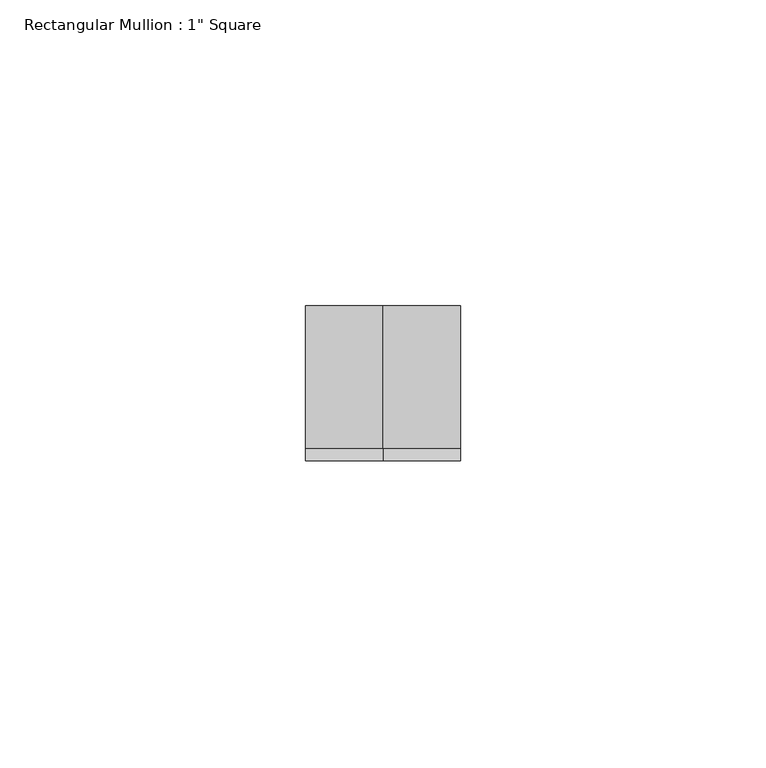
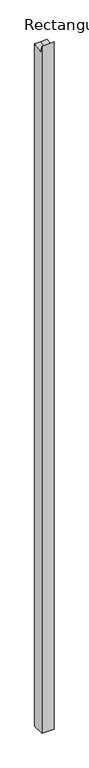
"""IFC4 building model written with IfcOpenShell, lengths in millimetres: member geometry."""

from ifc_helpers import new_model, si_unit, origin, place, context, project, spatial, faceted_brep, source, transform, mapped, element, save


def member_67cfadff(model_context):
    return source(origin(), model_context, "Body", "Brep", [
        faceted_brep([(12.7, 12.7, -1485.9), (12.7, -12.7, -1485.9), (-12.7, -12.7, -1485.9), (-12.7, 12.7, -1485.9), (-12.7, 12.7, 1.7713295), (0.0, 12.7, 1.7713295), (12.7, 12.7, 1.7713295), (-12.7, -12.7, 11.7479412), (-12.7, -10.6645783, -1.7515317), (12.7, -12.7, 11.7479412), (0.0, -12.7, 11.7479412), (12.7, -10.6645783, -1.7515317), (0.0, -10.6645783, -1.7515317)], [[[0, 1, 2, 3]], [[4, 5, 6, 0, 3]], [[7, 8, 4, 3, 2]], [[9, 10, 7, 2, 1]], [[6, 11, 9, 1, 0]], [[6, 5, 12, 11]], [[5, 4, 8, 12]], [[8, 7, 10, 12]], [[10, 9, 11, 12]]]),
    ])


if __name__ == "__main__":
    model = new_model("IFC4")
    model_context = context("Model", 3, world=origin())
    ifc_project = project(units=[si_unit("LENGTHUNIT", "METRE", prefix="MILLI")], contexts=[model_context])
    site = spatial("IfcSite", under=ifc_project)
    building = spatial("IfcBuilding", under=site)
    placement = place(None, origin())
    member_shape = member_67cfadff(model_context)
    element("IfcMember", 1, ObjectType="Rectangular Mullion : 1\" Square", at=placement, inside=building, context=model_context, shape_type="MappedRepresentation", body=[
        mapped(member_shape, transform((0.0, 0.0, 0.0), x_axis=(1.0, 0.0, 0.0), y_axis=(0.0, 1.0, 0.0), z_axis=(0.0, 0.0, 1.0))),
    ])
    save(model, "model.ifc")
